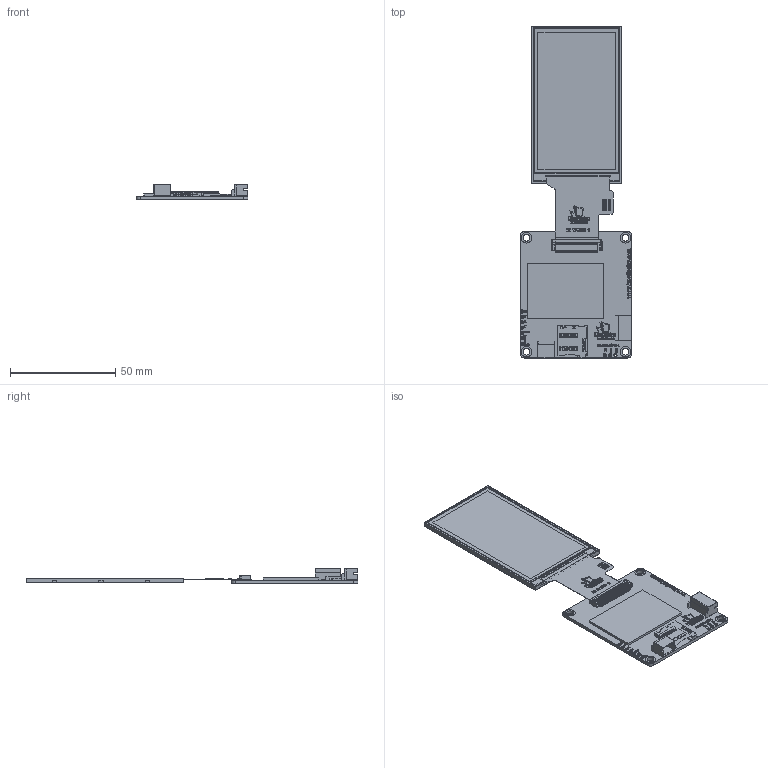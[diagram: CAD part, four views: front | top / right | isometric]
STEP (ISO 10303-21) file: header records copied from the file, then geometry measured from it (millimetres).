
FILE_DESCRIPTION (( 'STEP AP214' ), '1' );
FILE_NAME ('ER-TFT030-2-5982.STEP', '2024-07-17T02:09:27', ( '微软用户' ), ( '微软中国' ), 'SwSTEP 2.0', 'SolidWorks 2023', '' );
FILE_SCHEMA (( 'AUTOMOTIVE_DESIGN' ));
Length unit declared in the file: millimetre
Products named in the file (3): ER-TFT030-2; ER-TFT030-2-5982; ER-PCBA5982-1
Assembly tree (2 placements, depth 2):
  ER-TFT030-2-5982
    ER-PCBA5982-1
    ER-TFT030-2
Bounding box: 53 x 157.45 x 7.2 mm (x, y, z)
Volume: 13523.3 mm3; surface area: 20040.6 mm2
Topology: 156 solids, 156 shells, 5128 faces, 14874 edges, 9781 vertices
Faces by surface type: plane 3576, bspline 1073, cylinder 479
Entity records: 244960 total; most frequent: CARTESIAN_POINT 77973, ORIENTED_EDGE 29748, DIRECTION 21666, EDGE_CURVE 14874, VECTOR 11686, LINE 11686, VERTEX_POINT 9781, EDGE_LOOP 5431
